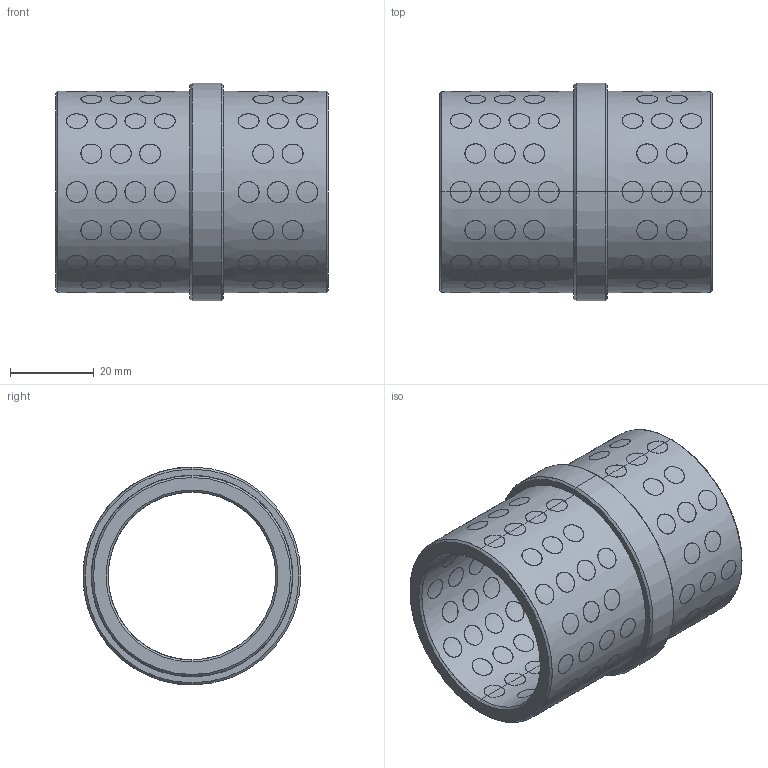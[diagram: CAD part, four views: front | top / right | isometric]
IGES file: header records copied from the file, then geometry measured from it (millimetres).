
Start section: START RECORD GO HERE.
Global section: file name: G4034065.igs; native system: DASSAULT SYSTEMES CATIA V5 R20 - www.3ds.com; preprocessor: CATIA Version 5 Release 20 ; author: r.borello; organization: CFTORINO; date: 20190624.144505; units: millimetre
Bounding box: 65 x 52 x 52 mm (x, y, z)
Surface area: 31513.3 mm2 (no closed solid volume)
Topology: 0 solids, 0 shells, 628 faces, 2736 edges, 2736 vertices
Faces by surface type: revolution 624, plane 4
